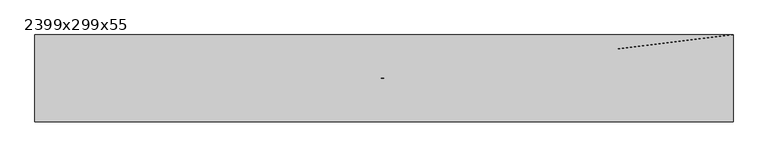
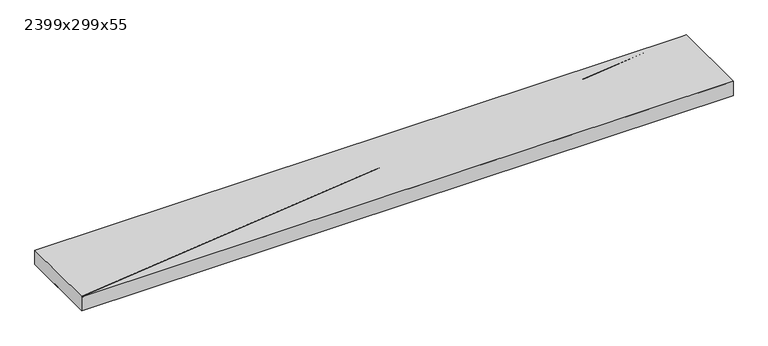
"""IFC4 building model written with IfcOpenShell, lengths in millimetres: proxy geometry, Texaa Panneaux Stereo fixés contre support par système magnétique séparés ou groupés au plafond : 2399x299x55."""

from ifc_helpers import new_model, si_unit, frame, origin, place, context, project, spatial, polyline, outline, extrude, faceted_brep, source, transform, mapped, element, save


def proxy_2399x299x55_101fdd83(model_context):
    return source(origin(), model_context, "Body", "SolidModel", [
        extrude(outline(polyline([(-1198.5, -148.5), (-1198.5, 148.5), (1198.5, 148.5), (1198.5, -148.5), (-1198.5, -148.5)])), frame((0.0, 0.0, 11.0), z_axis=(0.0, 0.0, 1.0), x_axis=(1.0, 0.0, 0.0)), (0.0, 0.0, 1.0), 53.0),
        faceted_brep([(1199.5, 149.5, 65.0), (798.3294314, 99.5, 65.0), (790.2439426, 99.5, 65.0), (1191.4145111, 149.5, 65.0), (-1199.5, 149.5, 65.0), (-1199.5, -148.492263, 65.0), (-26.4665387, -2.290927, 65.0), (0.0, 0.0, 65.0), (-1199.5, -149.5, 65.0), (1199.5, -149.5, 65.0), (-1199.5, -149.5, 10.0), (-1199.5, 149.5, 10.0), (1199.5, 149.5, 10.0), (1199.5, -149.5, 10.0), (-1149.5, 99.5, 10.0), (-1149.5, -99.5, 10.0), (1149.5, -99.5, 10.0), (1149.5, 99.5, 10.0), (-1199.5, -149.5, 64.0), (-1199.5, -148.492263, 64.0), (1191.4145111, 149.5, 64.0), (1199.5, 149.5, 64.0), (1149.5, 99.5, 11.0), (-1149.5, 99.5, 11.0), (1149.5, -99.5, 11.0), (-1149.5, -99.5, 11.0), (1198.5, -148.5, 64.0), (-1191.4765886, -148.5, 64.0), (0.0, 0.0, 64.0), (-26.4665387, -2.290927, 64.0), (-1198.5162459, -148.3696525, 64.0), (-1198.5, 148.5, 64.0), (1183.3910998, 148.5, 64.0), (790.2439426, 99.5, 64.0), (798.3294314, 99.5, 64.0), (1191.4765886, 148.5, 64.0), (1198.5, 148.5, 64.0), (-1198.5, -148.5, 11.0), (1198.5, -148.5, 11.0), (1198.5, 148.5, 11.0), (-1198.5, 148.5, 11.0)], [[[0, 1, 2, 3, 4, 5, 6, 7, 8, 9]], [[10, 11, 12, 13], [14, 15, 16, 17]], [[10, 18, 19, 5, 4, 11]], [[11, 4, 3, 20, 21, 12]], [[9, 13, 12, 21, 0]], [[8, 18, 10, 13, 9]], [[14, 17, 22, 23]], [[17, 16, 24, 22]], [[16, 15, 25, 24]], [[23, 25, 15, 14]], [[26, 27, 28, 29, 30, 31, 32, 33, 34, 35, 36]], [[37, 38, 39, 40], [22, 24, 25, 23]], [[30, 37, 40, 31]], [[39, 36, 35, 32, 31, 40]], [[36, 39, 38, 26]], [[37, 30, 27, 26, 38]], [[19, 18, 27, 30]], [[32, 35, 21, 20]], [[20, 3, 2, 33, 32]], [[30, 29, 6, 5, 19]], [[18, 8, 7, 28, 27]], [[35, 34, 1, 0, 21]], [[1, 34, 33, 2]], [[6, 29, 28, 7]]]),
    ])


if __name__ == "__main__":
    model = new_model("IFC4")
    model_context = context("Model", 3, world=origin())
    ifc_project = project(units=[si_unit("LENGTHUNIT", "METRE", prefix="MILLI")], contexts=[model_context])
    site = spatial("IfcSite", under=ifc_project)
    building = spatial("IfcBuilding", under=site)
    placement = place(None, origin())
    proxy_2399x299x55_shape = proxy_2399x299x55_101fdd83(model_context)
    element("IfcBuildingElementProxy", 1, Name="Texaa Panneaux Stereo fixés contre support par système magnétique séparés ou groupés au plafond : 2399x299x55", ObjectType="Texaa Panneaux Stereo fixés contre support par système magnétique séparés ou groupés au plafond : 2399x299x55", at=placement, inside=building, context=model_context, shape_type="MappedRepresentation", body=[
        mapped(proxy_2399x299x55_shape, transform((0.0, 0.0, 0.0), x_axis=(1.0, 0.0, 0.0), y_axis=(0.0, 1.0, 0.0), z_axis=(0.0, 0.0, 1.0))),
    ])
    save(model, "model.ifc")
